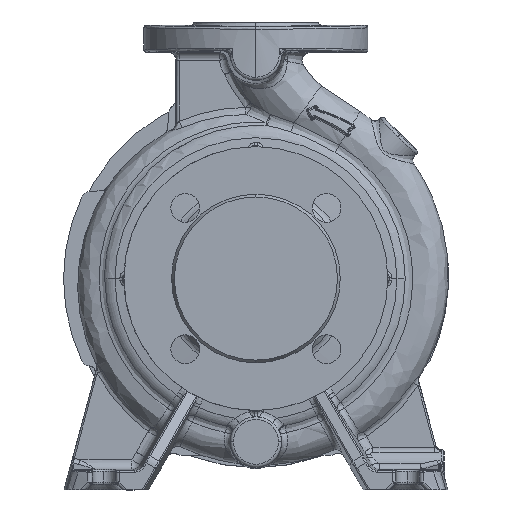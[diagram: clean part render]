
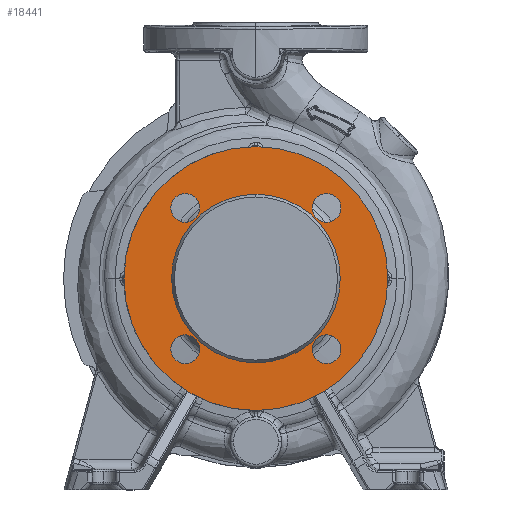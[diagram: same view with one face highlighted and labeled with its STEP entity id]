
A CAD part, top view. The second image highlights one B-rep face of the part: STEP entity #18441.
In plain terms, the highlighted planar face has unit normal (0, 0, 1).
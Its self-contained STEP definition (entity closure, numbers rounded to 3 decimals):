
#515 = CARTESIAN_POINT ( 'NONE',  ( -53.194, -44.194, 77. ) ) ;
#560 = AXIS2_PLACEMENT_3D ( 'NONE', #104206, #70941, #46360 ) ;
#934 = ORIENTED_EDGE ( 'NONE', *, *, #59785, .T. ) ;
#2488 = CIRCLE ( 'NONE', #560, 82.5 ) ;
#3849 = CARTESIAN_POINT ( 'NONE',  ( 0., -82.5, 77. ) ) ;
#4937 = EDGE_CURVE ( 'NONE', #59248, #11878, #102242, .T. ) ;
#6331 = CARTESIAN_POINT ( 'NONE',  ( -44.194, -44.194, 77. ) ) ;
#6566 = CARTESIAN_POINT ( 'NONE',  ( 44.194, -44.194, 77. ) ) ;
#6673 = DIRECTION ( 'NONE',  ( 0., 1., 0. ) ) ;
#6902 = VERTEX_POINT ( 'NONE', #25123 ) ;
#7500 = CARTESIAN_POINT ( 'NONE',  ( 44.194, -44.194, 77. ) ) ;
#8523 = DIRECTION ( 'NONE',  ( 0., 1., 0. ) ) ;
#10655 = EDGE_LOOP ( 'NONE', ( #18880, #39974 ) ) ;
#11878 = VERTEX_POINT ( 'NONE', #65491 ) ;
#12288 = DIRECTION ( 'NONE',  ( 0., 1., 0. ) ) ;
#12662 = EDGE_CURVE ( 'NONE', #11878, #59248, #86347, .T. ) ;
#13004 = PLANE ( 'NONE',  #97275 ) ;
#13176 = CARTESIAN_POINT ( 'NONE',  ( 35.194, 44.194, 77. ) ) ;
#13648 = AXIS2_PLACEMENT_3D ( 'NONE', #32723, #50366, #8523 ) ;
#14130 = AXIS2_PLACEMENT_3D ( 'NONE', #7500, #33131, #16266 ) ;
#14763 = DIRECTION ( 'NONE',  ( 0., 0., -1. ) ) ;
#14978 = FACE_BOUND ( 'NONE', #55975, .T. ) ;
#15228 = AXIS2_PLACEMENT_3D ( 'NONE', #100075, #107818, #23514 ) ;
#16200 = ORIENTED_EDGE ( 'NONE', *, *, #89427, .T. ) ;
#16266 = DIRECTION ( 'NONE',  ( 0., 1., 0. ) ) ;
#16639 = EDGE_LOOP ( 'NONE', ( #76073, #106135 ) ) ;
#17518 = ORIENTED_EDGE ( 'NONE', *, *, #24371, .F. ) ;
#17597 = FACE_OUTER_BOUND ( 'NONE', #104315, .T. ) ;
#18330 = CIRCLE ( 'NONE', #59109, 9. ) ;
#18441 = ADVANCED_FACE ( 'NONE', ( #76701, #17597, #43883, #54375, #14978, #29384 ), #13004, .F. ) ;
#18880 = ORIENTED_EDGE ( 'NONE', *, *, #4937, .T. ) ;
#19016 = VERTEX_POINT ( 'NONE', #24656 ) ;
#20514 = DIRECTION ( 'NONE',  ( 0., 1., 0. ) ) ;
#21859 = CARTESIAN_POINT ( 'NONE',  ( 0., 52.732, 77. ) ) ;
#22195 = DIRECTION ( 'NONE',  ( 0., 0., -1. ) ) ;
#22338 = DIRECTION ( 'NONE',  ( 0., 0., -1. ) ) ;
#23452 = ORIENTED_EDGE ( 'NONE', *, *, #30801, .F. ) ;
#23514 = DIRECTION ( 'NONE',  ( 0., 1., 0. ) ) ;
#24371 = EDGE_CURVE ( 'NONE', #99949, #6902, #94249, .T. ) ;
#24656 = CARTESIAN_POINT ( 'NONE',  ( -35.194, 44.194, 77. ) ) ;
#25096 = CARTESIAN_POINT ( 'NONE',  ( 0., 0., 77. ) ) ;
#25123 = CARTESIAN_POINT ( 'NONE',  ( 0., 82.5, 77. ) ) ;
#26358 = CARTESIAN_POINT ( 'NONE',  ( -35.194, -44.194, 77. ) ) ;
#26644 = EDGE_CURVE ( 'NONE', #102614, #92577, #45931, .T. ) ;
#29357 = EDGE_CURVE ( 'NONE', #92577, #102614, #82471, .T. ) ;
#29384 = FACE_BOUND ( 'NONE', #61060, .T. ) ;
#29865 = EDGE_CURVE ( 'NONE', #50840, #86022, #72542, .T. ) ;
#30801 = EDGE_CURVE ( 'NONE', #6902, #99949, #2488, .T. ) ;
#30984 = DIRECTION ( 'NONE',  ( 0., 1., 0. ) ) ;
#32723 = CARTESIAN_POINT ( 'NONE',  ( -44.194, 44.194, 77. ) ) ;
#33131 = DIRECTION ( 'NONE',  ( 0., 0., -1. ) ) ;
#33209 = CIRCLE ( 'NONE', #14130, 9. ) ;
#33824 = CARTESIAN_POINT ( 'NONE',  ( 53.194, 44.194, 77. ) ) ;
#37294 = CARTESIAN_POINT ( 'NONE',  ( 53.194, -44.194, 77. ) ) ;
#37426 = DIRECTION ( 'NONE',  ( 0., 0., -1. ) ) ;
#38496 = CARTESIAN_POINT ( 'NONE',  ( 0., 0., 77. ) ) ;
#39974 = ORIENTED_EDGE ( 'NONE', *, *, #12662, .T. ) ;
#40204 = CIRCLE ( 'NONE', #13648, 9. ) ;
#43883 = FACE_BOUND ( 'NONE', #16639, .T. ) ;
#45931 = CIRCLE ( 'NONE', #60158, 9. ) ;
#46045 = CARTESIAN_POINT ( 'NONE',  ( -44.194, -44.194, 77. ) ) ;
#46360 = DIRECTION ( 'NONE',  ( 0., 1., 0. ) ) ;
#46579 = DIRECTION ( 'NONE',  ( 0., 1., 0. ) ) ;
#47301 = AXIS2_PLACEMENT_3D ( 'NONE', #25096, #92894, #67329 ) ;
#49506 = AXIS2_PLACEMENT_3D ( 'NONE', #38496, #88323, #46579 ) ;
#49568 = ORIENTED_EDGE ( 'NONE', *, *, #26644, .T. ) ;
#50366 = DIRECTION ( 'NONE',  ( 0., 0., -1. ) ) ;
#50840 = VERTEX_POINT ( 'NONE', #33824 ) ;
#52090 = EDGE_CURVE ( 'NONE', #86022, #50840, #18330, .T. ) ;
#53781 = CARTESIAN_POINT ( 'NONE',  ( 0., 52.732, 77. ) ) ;
#54026 = AXIS2_PLACEMENT_3D ( 'NONE', #6331, #14763, #6673 ) ;
#54375 = FACE_BOUND ( 'NONE', #91252, .T. ) ;
#55975 = EDGE_LOOP ( 'NONE', ( #16200, #934 ) ) ;
#56263 = AXIS2_PLACEMENT_3D ( 'NONE', #6566, #22338, #72993 ) ;
#56990 = EDGE_CURVE ( 'NONE', #19016, #99237, #75356, .T. ) ;
#59109 = AXIS2_PLACEMENT_3D ( 'NONE', #74673, #91816, #66266 ) ;
#59248 = VERTEX_POINT ( 'NONE', #21859 ) ;
#59785 = EDGE_CURVE ( 'NONE', #64423, #69411, #107310, .T. ) ;
#60158 = AXIS2_PLACEMENT_3D ( 'NONE', #46045, #85929, #85211 ) ;
#61060 = EDGE_LOOP ( 'NONE', ( #49568, #81056 ) ) ;
#64423 = VERTEX_POINT ( 'NONE', #106225 ) ;
#65491 = CARTESIAN_POINT ( 'NONE',  ( 0., -52.732, 77. ) ) ;
#66266 = DIRECTION ( 'NONE',  ( 0., 1., 0. ) ) ;
#66888 = ORIENTED_EDGE ( 'NONE', *, *, #29865, .T. ) ;
#67329 = DIRECTION ( 'NONE',  ( 0., 1., 0. ) ) ;
#68245 = CARTESIAN_POINT ( 'NONE',  ( -53.194, 44.194, 77. ) ) ;
#69411 = VERTEX_POINT ( 'NONE', #37294 ) ;
#70941 = DIRECTION ( 'NONE',  ( 0., 0., -1. ) ) ;
#72542 = CIRCLE ( 'NONE', #87699, 9. ) ;
#72993 = DIRECTION ( 'NONE',  ( 0., 1., 0. ) ) ;
#74673 = CARTESIAN_POINT ( 'NONE',  ( 44.194, 44.194, 77. ) ) ;
#75356 = CIRCLE ( 'NONE', #15228, 9. ) ;
#76073 = ORIENTED_EDGE ( 'NONE', *, *, #56990, .T. ) ;
#76701 = FACE_BOUND ( 'NONE', #10655, .T. ) ;
#78553 = CARTESIAN_POINT ( 'NONE',  ( 44.194, 44.194, 77. ) ) ;
#79567 = ORIENTED_EDGE ( 'NONE', *, *, #52090, .T. ) ;
#81056 = ORIENTED_EDGE ( 'NONE', *, *, #29357, .T. ) ;
#81982 = CARTESIAN_POINT ( 'NONE',  ( 0., 0., 77. ) ) ;
#82471 = CIRCLE ( 'NONE', #54026, 9. ) ;
#85211 = DIRECTION ( 'NONE',  ( 0., 1., 0. ) ) ;
#85929 = DIRECTION ( 'NONE',  ( 0., 0., -1. ) ) ;
#86022 = VERTEX_POINT ( 'NONE', #13176 ) ;
#86347 = CIRCLE ( 'NONE', #49506, 52.732 ) ;
#87699 = AXIS2_PLACEMENT_3D ( 'NONE', #78553, #37426, #20514 ) ;
#88323 = DIRECTION ( 'NONE',  ( 0., 0., -1. ) ) ;
#89427 = EDGE_CURVE ( 'NONE', #69411, #64423, #33209, .T. ) ;
#91252 = EDGE_LOOP ( 'NONE', ( #66888, #79567 ) ) ;
#91816 = DIRECTION ( 'NONE',  ( 0., 0., -1. ) ) ;
#92577 = VERTEX_POINT ( 'NONE', #515 ) ;
#92894 = DIRECTION ( 'NONE',  ( 0., 0., -1. ) ) ;
#94249 = CIRCLE ( 'NONE', #47301, 82.5 ) ;
#96922 = DIRECTION ( 'NONE',  ( 0., 0., -1. ) ) ;
#96996 = AXIS2_PLACEMENT_3D ( 'NONE', #81982, #22195, #30984 ) ;
#97275 = AXIS2_PLACEMENT_3D ( 'NONE', #53781, #96922, #12288 ) ;
#99237 = VERTEX_POINT ( 'NONE', #68245 ) ;
#99949 = VERTEX_POINT ( 'NONE', #3849 ) ;
#100075 = CARTESIAN_POINT ( 'NONE',  ( -44.194, 44.194, 77. ) ) ;
#102048 = EDGE_CURVE ( 'NONE', #99237, #19016, #40204, .T. ) ;
#102242 = CIRCLE ( 'NONE', #96996, 52.732 ) ;
#102614 = VERTEX_POINT ( 'NONE', #26358 ) ;
#104206 = CARTESIAN_POINT ( 'NONE',  ( 0., 0., 77. ) ) ;
#104315 = EDGE_LOOP ( 'NONE', ( #23452, #17518 ) ) ;
#106135 = ORIENTED_EDGE ( 'NONE', *, *, #102048, .T. ) ;
#106225 = CARTESIAN_POINT ( 'NONE',  ( 35.194, -44.194, 77. ) ) ;
#107310 = CIRCLE ( 'NONE', #56263, 9. ) ;
#107818 = DIRECTION ( 'NONE',  ( 0., 0., -1. ) ) ;
